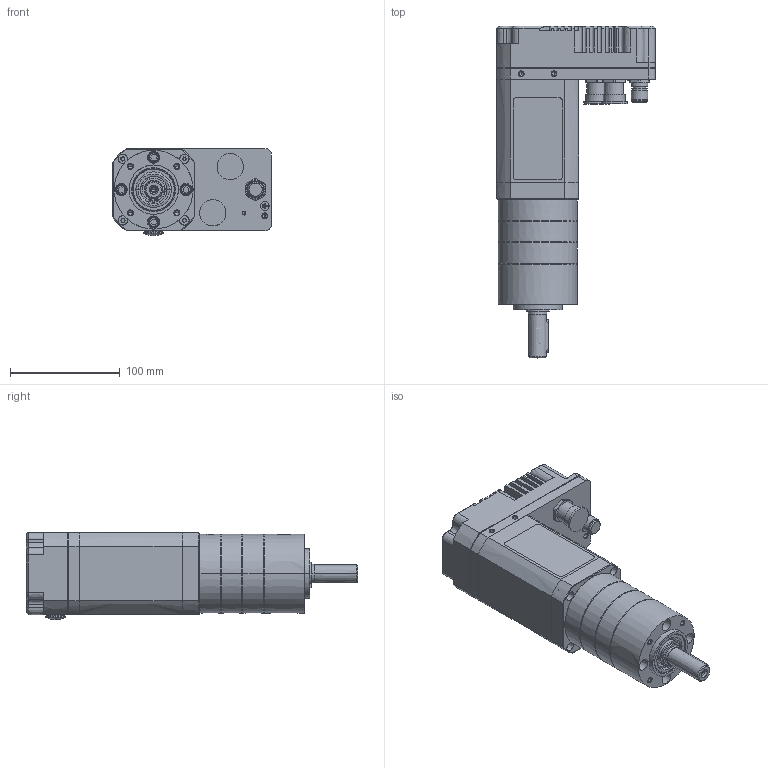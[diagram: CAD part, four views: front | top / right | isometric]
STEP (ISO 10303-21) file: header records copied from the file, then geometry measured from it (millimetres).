
FILE_DESCRIPTION((''),'2;1');
FILE_NAME('8036D_3STAGES','2018-08-29T',('ALECMA1'),('CROUZET-AUTOMATISMES'),'CREO PARAMETRIC BY PTC INC, 2017170','CREO PARAMETRIC BY PTC INC, 2017170','');
FILE_SCHEMA(('AP203_CONFIGURATION_CONTROLLED_3D_DESIGN_OF_MECHANICAL_PARTS_AND_ASSEMBLIES_MIM_LF { 1 0 10303 403 2 1 2 }'));
Products named in the file (1): 8036D_3STAGES
Bounding box: 145 x 302.95 x 79.69 mm (x, y, z)
Surface area: 138315 mm2 (no closed solid volume)
Topology: 0 solids, 0 shells, 699 faces, 3605 edges, 3565 vertices
Faces by surface type: bspline 671, torus 24, sphere 4
Entity records: 68723 total; most frequent: CARTESIAN_POINT 29954, DIRECTION 5703, TRIMMED_CURVE 4837, VECTOR 4052, LINE 4052, DEFINITIONAL_REPRESENTATION 3547, PCURVE 3547, COMPOSITE_CURVE_SEGMENT 3547
